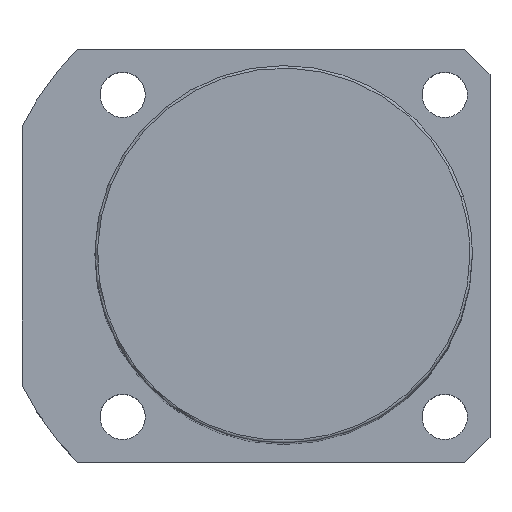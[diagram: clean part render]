
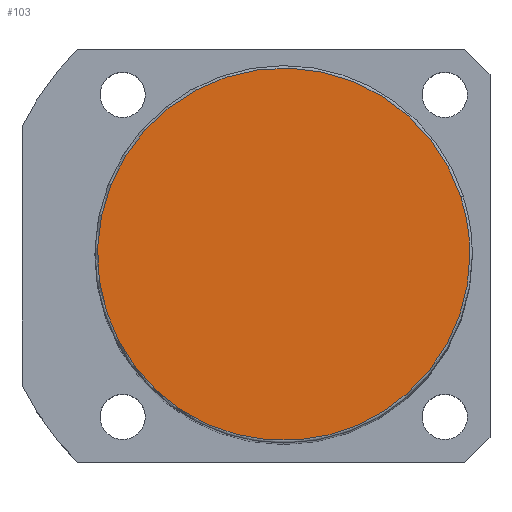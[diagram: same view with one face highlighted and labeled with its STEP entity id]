
A CAD part, top view. The second image highlights one B-rep face of the part: STEP entity #103.
In plain terms, the highlighted planar face has unit normal (0, 0, 1).
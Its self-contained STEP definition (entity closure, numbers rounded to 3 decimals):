
#16=CARTESIAN_POINT('',(-35.189,-11.434,193.0));
#17=VERTEX_POINT('',#16);
#54=CARTESIAN_POINT('',(35.189,11.434,193.0));
#55=VERTEX_POINT('',#54);
#63=CARTESIAN_POINT('',(37.0,0.0,193.0));
#64=VERTEX_POINT('',#63);
#65=CARTESIAN_POINT('',(0.0,0.0,193.0));
#66=DIRECTION('',(0.0,0.0,1.0));
#67=DIRECTION('',(1.0,0.0,0.0));
#68=AXIS2_PLACEMENT_3D('',#65,#66,#67);
#69=CIRCLE('',#68,37.0);
#70=EDGE_CURVE('no 898',#64,#55,#69,.T.);
#72=CARTESIAN_POINT('',(0.0,0.0,193.0));
#73=DIRECTION('',(0.0,0.0,1.0));
#74=DIRECTION('',(1.0,0.0,0.0));
#75=AXIS2_PLACEMENT_3D('',#72,#73,#74);
#76=CIRCLE('',#75,37.0);
#77=EDGE_CURVE('no 902',#17,#64,#76,.T.);
#87=ORIENTED_EDGE('',*,*,#70,.T.);
#88=CARTESIAN_POINT('',(0.0,0.0,193.0));
#89=DIRECTION('',(0.0,0.0,1.0));
#90=DIRECTION('',(1.0,0.0,0.0));
#91=AXIS2_PLACEMENT_3D('',#88,#89,#90);
#92=CIRCLE('',#91,37.0);
#93=EDGE_CURVE('no 911',#55,#17,#92,.T.);
#94=ORIENTED_EDGE('',*,*,#93,.T.);
#95=ORIENTED_EDGE('',*,*,#77,.T.);
#96=EDGE_LOOP('',(#87,#94,#95));
#97=FACE_OUTER_BOUND('',#96,.T.);
#98=CARTESIAN_POINT('',(0.0,0.0,193.0));
#99=DIRECTION('',(0.0,0.0,1.0));
#100=DIRECTION('',(1.0,0.0,0.0));
#101=AXIS2_PLACEMENT_3D('',#98,#99,#100);
#102=PLANE('',#101);
#103=ADVANCED_FACE('no 904',(#97),#102,.T.);
